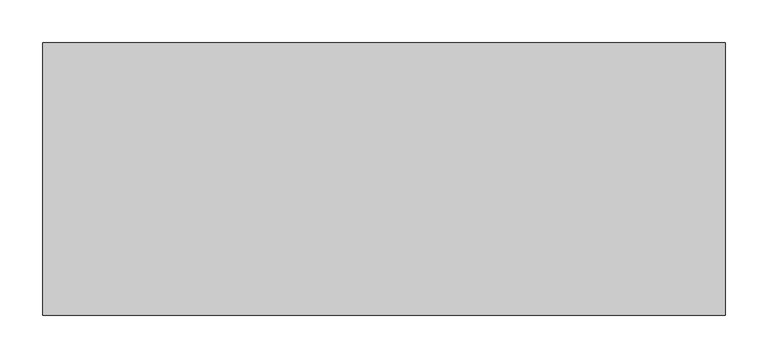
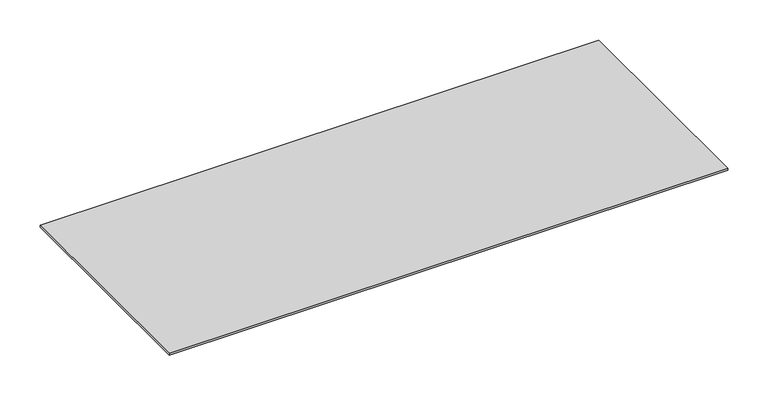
"""IFC4 building model written with IfcOpenShell, lengths in millimetres: proxy geometry, Electrical_Installation_Hager_Blank-Cover-BKA : Electrical_Installation_Hager_Blank-Cover-BKA."""

from ifc_helpers import new_model, si_unit, frame, origin, place, context, project, spatial, polyline, outline, extrude, source, transform, mapped, element, save


def electrical_fixtures_581fab28(model_context):
    return source(origin(), model_context, "Body", "SweptSolid", [
        extrude(outline(polyline([(800.0, 159.75), (800.0, -159.75), (0.0, -159.75), (0.0, 159.75), (800.0, 159.75)])), frame((0.0, 0.0, 10.0), z_axis=(0.0, 0.0, 1.0), x_axis=(1.0, 0.0, 0.0)), (0.0, 0.0, 1.0), 3.0),
    ])


if __name__ == "__main__":
    model = new_model("IFC4")
    model_context = context("Model", 3, world=origin())
    ifc_project = project(units=[si_unit("LENGTHUNIT", "METRE", prefix="MILLI")], contexts=[model_context])
    site = spatial("IfcSite", under=ifc_project)
    building = spatial("IfcBuilding", under=site)
    placement = place(None, origin())
    electrical_fixtures_shape = electrical_fixtures_581fab28(model_context)
    element("IfcBuildingElementProxy", 1, Name="Electrical_Installation_Hager_Blank-Cover-BKA : Electrical_Installation_Hager_Blank-Cover-BKA", ObjectType="Electrical_Installation_Hager_Blank-Cover-BKA : Electrical_Installation_Hager_Blank-Cover-BKA", at=placement, inside=building, context=model_context, shape_type="MappedRepresentation", body=[
        mapped(electrical_fixtures_shape, transform((0.0, 0.0, 0.0), x_axis=(1.0, 0.0, 0.0), y_axis=(0.0, 1.0, 0.0), z_axis=(0.0, 0.0, 1.0))),
    ])
    save(model, "model.ifc")
